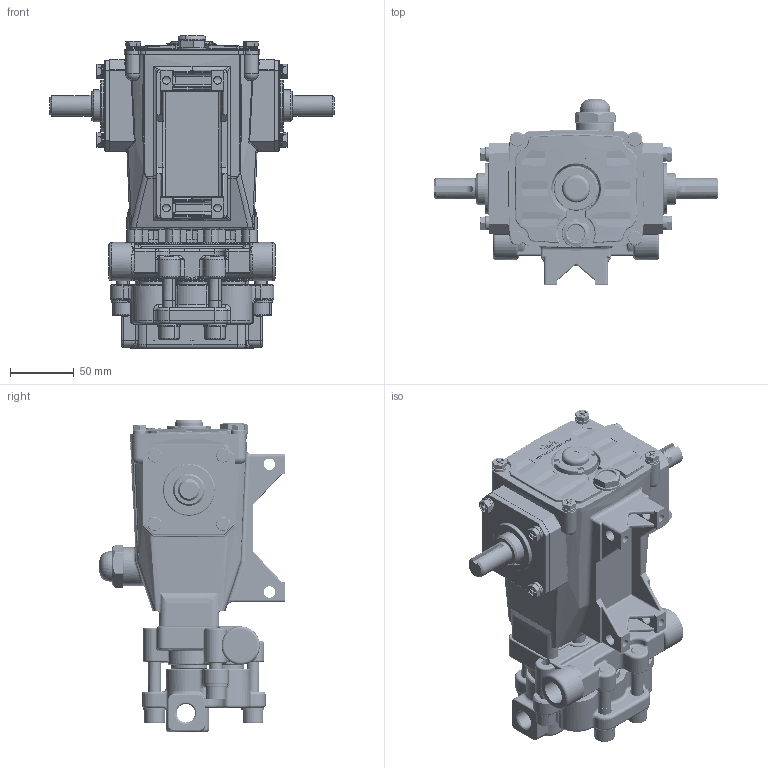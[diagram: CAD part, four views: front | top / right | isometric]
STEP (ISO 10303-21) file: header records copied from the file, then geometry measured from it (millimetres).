
FILE_DESCRIPTION (( 'STEP AP214' ), '1' );
FILE_NAME ('3CP 1221.STEP', '2012-11-16T10:22:43', ( '' ), ( '' ), 'SwSTEP 2.0', 'SolidWorks 2012', '' );
FILE_SCHEMA (( 'AUTOMOTIVE_DESIGN' ));
Length unit declared in the file: millimetre
Products named in the file (1): 3CP 1221
Bounding box: 223 x 145.2 x 245 mm (x, y, z)
Volume: 1458613.3 mm3; surface area: 311487.2 mm2
Topology: 1 solids, 51 shells, 5343 faces, 13723 edges, 8645 vertices
Faces by surface type: plane 2157, cylinder 1293, bspline 927, torus 490, cone 399, sphere 77
Entity records: 248632 total; most frequent: CARTESIAN_POINT 78636, ORIENTED_EDGE 27174, DIRECTION 23645, EDGE_CURVE 13587, VERTEX_POINT 8617, AXIS2_PLACEMENT_3D 8406, VECTOR 6833, LINE 6833
